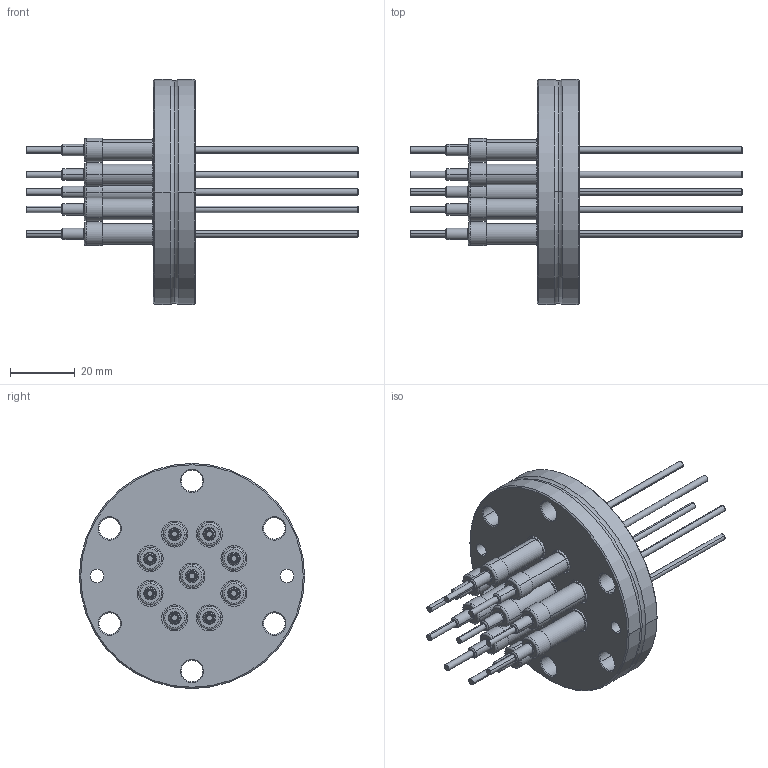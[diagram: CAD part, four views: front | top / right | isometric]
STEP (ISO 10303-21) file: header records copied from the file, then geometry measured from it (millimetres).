
FILE_DESCRIPTION((''),'2;1');
FILE_NAME('N:\Transfer\Berger Martin\Leybold\C15\210313.stp','2005-02-07T09:58:26',('VCRC_L'),(''),'Autodesk Inventor 9','Autodesk Inventor 9','');
FILE_SCHEMA(('AUTOMOTIVE_DESIGN { 1 0 10303 214 1 1 1 1 }'));
Length unit declared in the file: millimetre
Products named in the file (1): 210313
Bounding box: 102.5 x 69.5 x 69.5 mm (x, y, z)
Volume: 49501.1 mm3; surface area: 28058.9 mm2
Topology: 10 solids, 10 shells, 601 faces, 1378 edges, 882 vertices
Faces by surface type: cylinder 184, cone 154, plane 105, torus 96, bspline 62
Entity records: 18826 total; most frequent: CARTESIAN_POINT 4446, DIRECTION 3442, ORIENTED_EDGE 2756, AXIS2_PLACEMENT_3D 1540, EDGE_CURVE 1378, CIRCLE 1000, VERTEX_POINT 882, EDGE_LOOP 720
